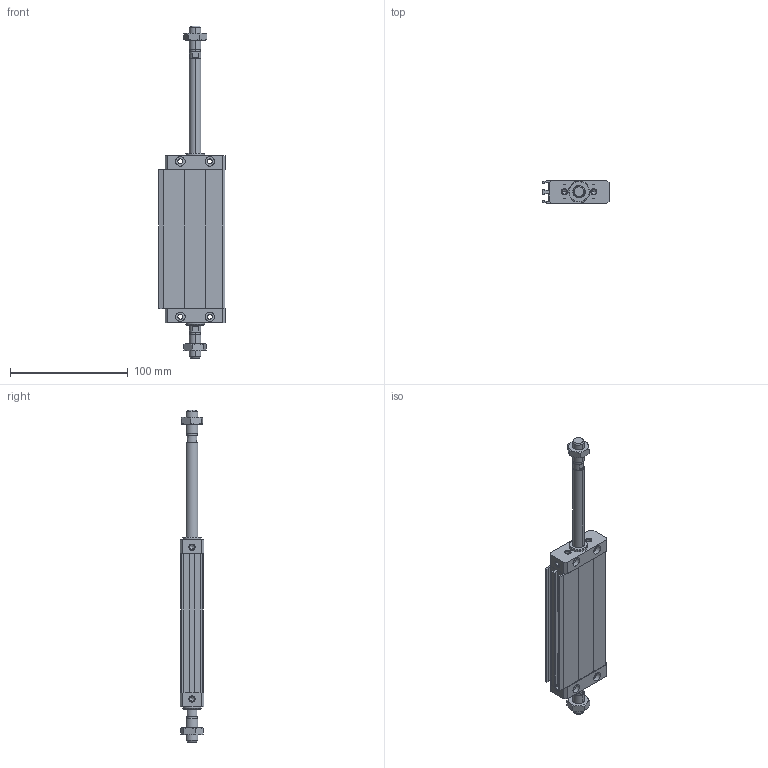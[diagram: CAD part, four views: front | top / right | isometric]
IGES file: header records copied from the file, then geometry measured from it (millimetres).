
Global section: file name: No Iges File Name specified; native system: Autodesk Inventor 2011; preprocessor: AutoDesk Inventor Iges Exporter R2011; author: airolcr1; date: 20101213.152815; units: millimetre
Bounding box: 56.25 x 20 x 282 mm (x, y, z)
Volume: 116390.8 mm3; surface area: 57566.3 mm2
Topology: 6 solids, 6 shells, 282 faces, 664 edges, 392 vertices
Faces by surface type: bspline 117, plane 97, cone 36, cylinder 18, revolution 14
